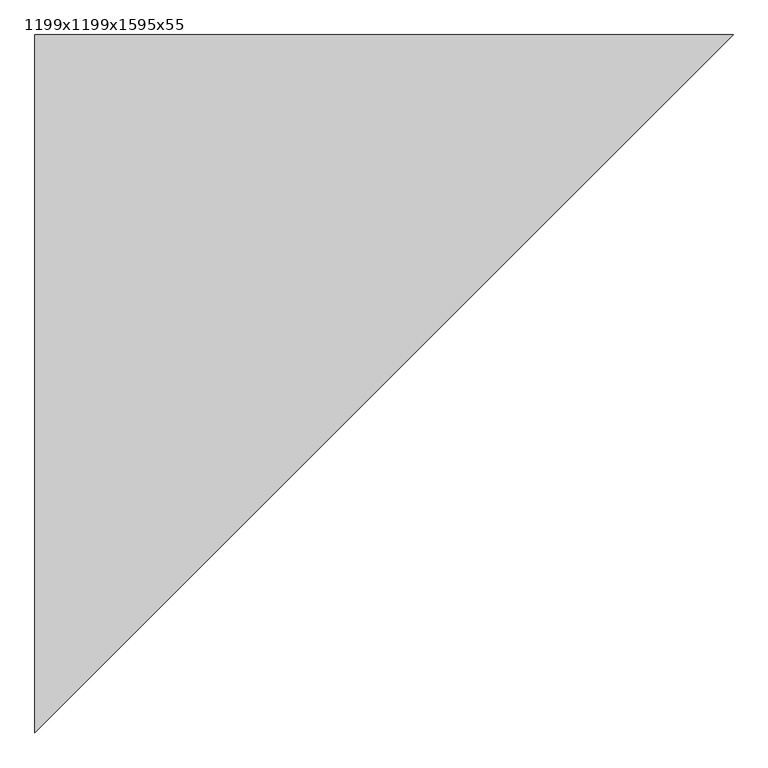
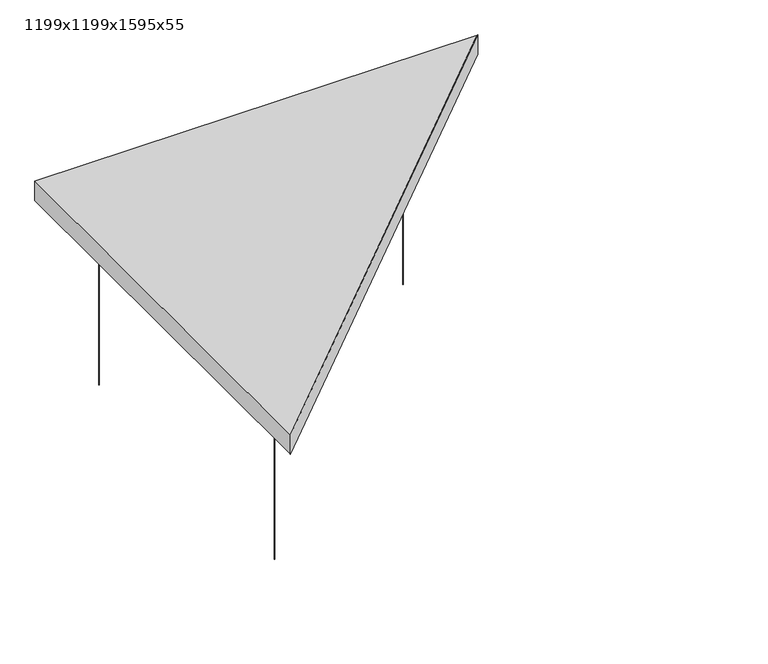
"""IFC4 building model written with IfcOpenShell, lengths in millimetres: proxy geometry, Texaa Panneaux_acoustiques Stereo suspendus_séparés : 1199x1199x1595x55."""

from ifc_helpers import new_model, si_unit, point, frame, frame_2d, origin, origin_with_axes, place, context, project, spatial, polyline, circle_curve, trimmed, segment, composite_curve, outline, extrude, faceted_brep, source, transform, mapped, element, save


def proxy_1199x1199x1595x55_0afc44db(model_context):
    return source(origin(), model_context, "Body", "SolidModel", [
        extrude(outline(composite_curve([segment(trimmed(circle_curve(frame_2d((-489.5, -333.9365081)), 0.75), [point((-490.25, -333.9365081))], [point((-488.75, -333.9365081))], False, "CARTESIAN"), True, "CONTINUOUS"), segment(trimmed(circle_curve(frame_2d((-489.5, -333.9365081)), 0.75), [point((-488.75, -333.9365081))], [point((-490.25, -333.9365081))], False, "CARTESIAN"), True, "CONTINUOUS")], self_intersect=False)), origin_with_axes(), (0.0, 0.0, 1.0), 500.0),
        extrude(outline(composite_curve([segment(trimmed(circle_curve(frame_2d((333.9365081, 489.5)), 0.75), [point((333.1865081, 489.5))], [point((334.6865081, 489.5))], False, "CARTESIAN"), True, "CONTINUOUS"), segment(trimmed(circle_curve(frame_2d((333.9365081, 489.5)), 0.75), [point((334.6865081, 489.5))], [point((333.1865081, 489.5))], False, "CARTESIAN"), True, "CONTINUOUS")], self_intersect=False)), origin_with_axes(), (0.0, 0.0, 1.0), 500.0),
        extrude(outline(composite_curve([segment(trimmed(circle_curve(frame_2d((-489.5, 489.5)), 0.75), [point((-490.25, 489.5))], [point((-488.75, 489.5))], False, "CARTESIAN"), True, "CONTINUOUS"), segment(trimmed(circle_curve(frame_2d((-489.5, 489.5)), 0.75), [point((-488.75, 489.5))], [point((-490.25, 489.5))], False, "CARTESIAN"), True, "CONTINUOUS")], self_intersect=False)), origin_with_axes(), (0.0, 0.0, 1.0), 500.0),
        extrude(outline(polyline([(597.0857864, 598.5), (-598.5, -597.0857864), (-598.5, 598.5), (597.0857864, 598.5)])), frame((0.0, 0.0, 501.0), z_axis=(0.0, 0.0, 1.0), x_axis=(1.0, 0.0, 0.0)), (0.0, 0.0, 1.0), 53.0),
        faceted_brep([(599.5, 599.5, 555.0), (598.0857864, 599.5, 555.0), (-599.5, 599.5, 555.0), (-599.5, -598.0857864, 555.0), (-599.5, -599.5, 555.0), (-599.5, -599.5, 500.0), (-599.5, -598.0857864, 500.0), (-599.5, 599.5, 500.0), (598.0857864, 599.5, 500.0), (599.5, 599.5, 500.0), (-549.5, -471.7182541, 500.0), (471.7182541, 549.5, 500.0), (-549.5, 549.5, 500.0), (471.7182541, 549.5, 501.0), (-549.5, 549.5, 501.0), (-549.5, -471.7182541, 501.0), (597.0857864, 598.5, 554.0), (-598.5, -597.0857864, 554.0), (-598.5, 598.5, 554.0), (-598.5, -597.0857864, 501.0), (597.0857864, 598.5, 501.0), (-598.5, 598.5, 501.0)], [[[0, 1, 2, 3, 4]], [[5, 6, 7, 8, 9], [10, 11, 12]], [[7, 6, 5, 4, 3, 2]], [[2, 1, 0, 9, 8, 7]], [[12, 11, 13, 14]], [[14, 15, 10, 12]], [[16, 17, 18]], [[19, 20, 21], [13, 15, 14]], [[18, 17, 19, 21]], [[21, 20, 16, 18]], [[4, 5, 9, 0]], [[10, 15, 13, 11]], [[16, 20, 19, 17]]]),
    ])


if __name__ == "__main__":
    model = new_model("IFC4")
    model_context = context("Model", 3, world=origin())
    ifc_project = project(units=[si_unit("LENGTHUNIT", "METRE", prefix="MILLI")], contexts=[model_context])
    site = spatial("IfcSite", under=ifc_project)
    building = spatial("IfcBuilding", under=site)
    placement = place(None, origin())
    proxy_1199x1199x1595x55_shape = proxy_1199x1199x1595x55_0afc44db(model_context)
    element("IfcBuildingElementProxy", 1, Name="Texaa Panneaux_acoustiques Stereo suspendus_séparés : 1199x1199x1595x55", ObjectType="Texaa Panneaux_acoustiques Stereo suspendus_séparés : 1199x1199x1595x55", at=placement, inside=building, context=model_context, shape_type="MappedRepresentation", body=[
        mapped(proxy_1199x1199x1595x55_shape, transform((0.0, 0.0, 0.0), x_axis=(1.0, 0.0, 0.0), y_axis=(0.0, 1.0, 0.0), z_axis=(0.0, 0.0, 1.0))),
    ])
    save(model, "model.ifc")
